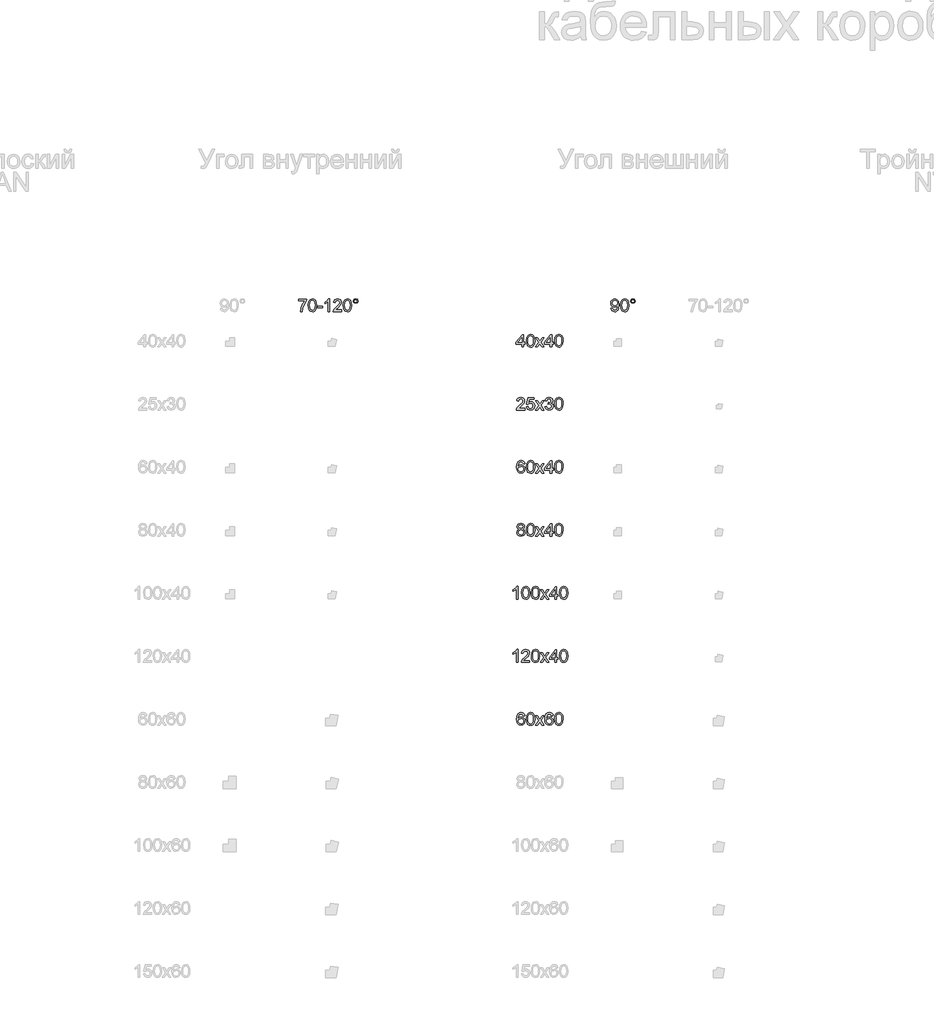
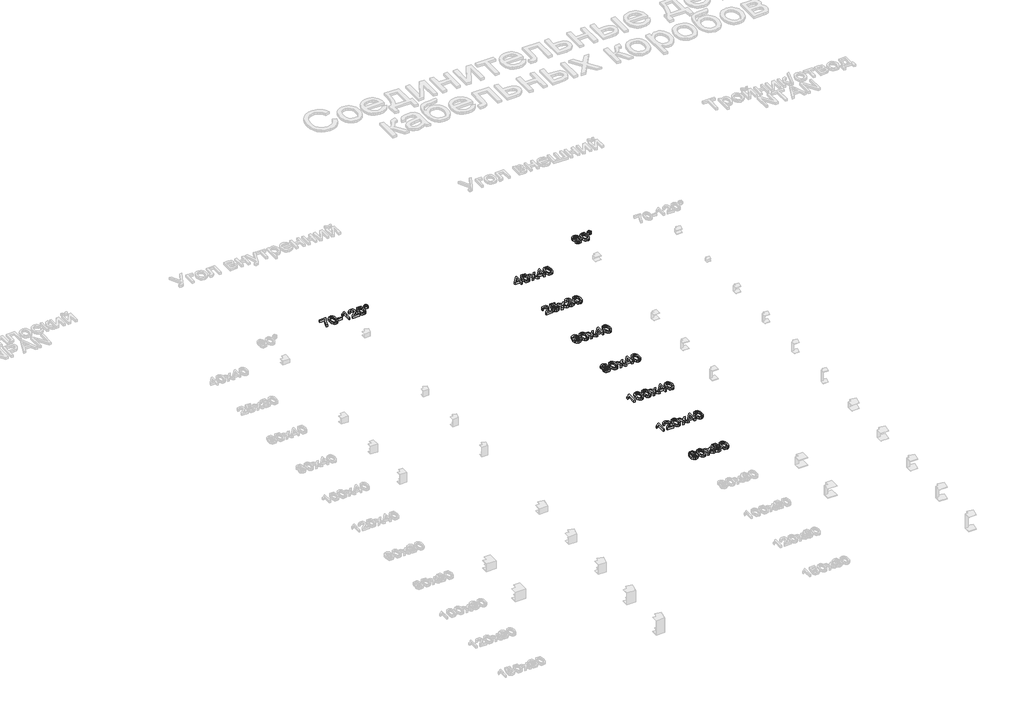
# One storey, part 23 of 28: 9 proxies.
"""IFC4 building model written with IfcOpenShell, lengths in millimetres."""

from ifc_helpers import new_model, si_unit, origin, origin_with_axes, place, context, project, spatial, polyline, outline, extrude, element, save

model = new_model("IFC4")

# Units and contexts
model_context = context("Model", 3, world=origin())
ifc_project = project(units=[si_unit("LENGTHUNIT", "METRE", prefix="MILLI")], contexts=[model_context])

# Site, building, storey
site = spatial("IfcSite", under=ifc_project)
building = spatial("IfcBuilding", under=site)
storey = spatial("IfcBuildingStorey", under=building, Name="Этаж 01", Elevation=0.0)

# Proxies
placement = place(None, origin())
element("IfcBuildingElementProxy", 1, Name="100 мм Arial", ObjectType="100 мм Arial", at=placement, inside=storey, context=model_context, shape_type="SweptSolid", body=[
    extrude(outline(polyline([(16326.7259865, 3404.3207982), (16326.7259865, 3416.877837), (16392.65044, 3416.877837), (16392.65044, 3406.7242939), (16373.949772, 3379.7094928), (16359.6391623, 3345.2880008), (16354.9793237, 3317.9911567), (16342.422285, 3317.9911567), (16347.4132174, 3346.3180703), (16361.1106903, 3378.3360667), (16380.0934013, 3404.3207982), (16326.7259865, 3404.3207982)])), origin_with_axes(), (0.0, 0.0, 1.0), 20.0),
    extrude(outline(polyline([(16403.637849, 3367.4099714), (16407.3289316, 3396.3132335), (16418.2918151, 3412.9782879), (16436.6000757, 3418.4474669), (16451.2663046, 3415.2101053), (16461.3953222, 3405.8781654), (16467.2814341, 3391.0157328), (16469.5623025, 3367.4099714), (16465.908008, 3338.6293366), (16454.9819128, 3321.9274941), (16446.7505531, 3317.7980187), (16436.6000757, 3316.4215269), (16423.5525276, 3318.8127598), (16413.6442392, 3325.9864587), (16406.1394465, 3342.9764756), (16403.637849, 3367.4099714)]), holes=[polyline([(16416.1948877, 3367.4344969), (16417.6664157, 3347.6822994), (16422.0809997, 3336.2503664), (16428.6538246, 3330.7965158), (16436.6000757, 3328.9785656), (16444.5463268, 3330.8026472), (16451.1191518, 3336.2748919), (16455.5337357, 3347.7129562), (16457.0052637, 3367.4344969), (16455.5827867, 3386.7421702), (16451.3153555, 3398.2630081), (16444.7547933, 3403.9835731), (16436.4529229, 3405.8904281), (16428.592511, 3404.2104336), (16422.2772034, 3399.1704503), (16417.7154666, 3386.9322426), (16416.1948877, 3367.4344969)])]), origin_with_axes(), (0.0, 0.0, 1.0), 20.0),
    extrude(outline(polyline([(16477.4104517, 3347.8141238), (16477.4104517, 3360.3711626), (16516.6511979, 3360.3711626), (16516.6511979, 3347.8141238), (16477.4104517, 3347.8141238)])), origin_with_axes(), (0.0, 0.0, 1.0), 20.0),
    extrude(outline(polyline([(16574.7275022, 3317.9911567), (16562.1704634, 3317.9911567), (16562.1704634, 3396.2764453), (16550.2756122, 3387.8028967), (16537.0563859, 3381.4630636), (16537.0563859, 3393.3333893), (16555.4627484, 3405.0810877), (16566.6340983, 3418.4474669), (16574.7275022, 3418.4474669), (16574.7275022, 3317.9911567)])), origin_with_axes(), (0.0, 0.0, 1.0), 20.0),
    extrude(outline(polyline([(16668.905293, 3330.5481955), (16668.905293, 3317.9911567), (16602.9808394, 3317.9911567), (16604.3297401, 3326.6486463), (16611.9571601, 3339.9782373), (16627.677984, 3354.5341016), (16649.3584963, 3375.4543244), (16654.7786243, 3389.6790948), (16649.6650646, 3401.1938013), (16636.3109482, 3405.8904281), (16622.392746, 3401.3041659), (16617.107508, 3388.6244998), (16604.5504693, 3390.1941296), (16607.5946928, 3402.3403668), (16614.1767148, 3411.2124543), (16623.9531788, 3416.6387137), (16636.5807283, 3418.4474669), (16649.3002483, 3416.4363786), (16659.0583182, 3410.4031139), (16665.2663269, 3401.390005), (16667.3356631, 3390.4393843), (16665.1038457, 3378.5322704), (16657.6848921, 3366.2204863), (16639.6954625, 3349.0158716), (16625.2499629, 3336.9370795), (16619.5845801, 3330.5481955), (16668.905293, 3330.5481955)])), origin_with_axes(), (0.0, 0.0, 1.0), 20.0),
    extrude(outline(polyline([(16681.4623317, 3367.4099714), (16685.1534144, 3396.3132335), (16696.1162979, 3412.9782879), (16714.4245585, 3418.4474669), (16729.0907874, 3415.2101053), (16739.219805, 3405.8781654), (16745.1059169, 3391.0157328), (16747.3867853, 3367.4099714), (16743.7324908, 3338.6293366), (16732.8063955, 3321.9274941), (16724.5750359, 3317.7980187), (16714.4245585, 3316.4215269), (16701.3770104, 3318.8127598), (16691.468722, 3325.9864587), (16683.9639293, 3342.9764756), (16681.4623317, 3367.4099714)]), holes=[polyline([(16694.0193705, 3367.4344969), (16695.4908985, 3347.6822994), (16699.9054824, 3336.2503664), (16706.4783074, 3330.7965158), (16714.4245585, 3328.9785656), (16722.3708096, 3330.8026472), (16728.9436346, 3336.2748919), (16733.3582185, 3347.7129562), (16734.8297465, 3367.4344969), (16733.4072694, 3386.7421702), (16729.1398383, 3398.2630081), (16722.579276, 3403.9835731), (16714.2774057, 3405.8904281), (16706.4169937, 3404.2104336), (16700.1016861, 3399.1704503), (16695.5399494, 3386.9322426), (16694.0193705, 3367.4344969)])]), origin_with_axes(), (0.0, 0.0, 1.0), 20.0),
    extrude(outline(polyline([(16761.5134539, 3401.206064), (16767.0439465, 3414.5233922), (16780.3244866, 3420.0170967), (16793.6908657, 3414.5233922), (16799.1845702, 3401.206064), (16793.6540775, 3387.8764731), (16780.3244866, 3382.3459804), (16767.0439465, 3387.8396849), (16761.5134539, 3401.206064)]), holes=[polyline([(16769.3616031, 3401.1815386), (16772.5867019, 3393.4069657), (16780.3735375, 3390.1941296), (16788.1113221, 3393.4069657), (16791.3364209, 3401.1815386), (16788.1113221, 3408.9561114), (16780.3735375, 3412.1689475), (16772.5867019, 3408.9561114), (16769.3616031, 3401.1815386)])]), origin_with_axes(), (0.0, 0.0, 1.0), 20.0),
])
element("IfcBuildingElementProxy", 2, Name="100 мм Arial", ObjectType="100 мм Arial", at=placement, inside=storey, context=model_context, shape_type="SweptSolid", body=[
    extrude(outline(polyline([(18099.7099126, 3036.6647442), (18099.7099126, 3060.2091919), (18054.1906471, 3060.2091919), (18054.1906471, 3072.7662307), (18102.8491723, 3135.5514245), (18112.2669514, 3135.5514245), (18112.2669514, 3072.7662307), (18124.8239902, 3072.7662307), (18124.8239902, 3060.2091919), (18112.2669514, 3060.2091919), (18112.2669514, 3036.6647442), (18099.7099126, 3036.6647442)]), holes=[polyline([(18099.7099126, 3072.7662307), (18099.7099126, 3111.5655184), (18069.6416909, 3072.7662307), (18099.7099126, 3072.7662307)])]), origin_with_axes(), (0.0, 0.0, 1.0), 20.0),
    extrude(outline(polyline([(18135.8113991, 3086.0835589), (18139.5024818, 3114.986821), (18150.4653652, 3131.6518754), (18168.7736259, 3137.1210543), (18183.4398547, 3133.8836928), (18193.5688723, 3124.5517528), (18199.4549843, 3109.6893202), (18201.7358526, 3086.0835589), (18198.0815581, 3057.3029241), (18187.1554629, 3040.6010815), (18178.9241032, 3036.4716062), (18168.7736259, 3035.0951144), (18155.7260778, 3037.4863473), (18145.8177894, 3044.6600462), (18138.3129967, 3061.650063), (18135.8113991, 3086.0835589)]), holes=[polyline([(18148.3684379, 3086.1080844), (18149.8399658, 3066.3558869), (18154.2545498, 3054.9239539), (18160.8273748, 3049.4701033), (18168.7736259, 3047.6521531), (18176.719877, 3049.4762347), (18183.2927019, 3054.9484794), (18187.7072859, 3066.3865437), (18189.1788139, 3086.1080844), (18187.7563368, 3105.4157577), (18183.4889057, 3116.9365955), (18176.9283434, 3122.6571606), (18168.6264731, 3124.5640156), (18160.7660611, 3122.8840211), (18154.4507535, 3117.8440378), (18149.8890168, 3105.6058301), (18148.3684379, 3086.1080844)])]), origin_with_axes(), (0.0, 0.0, 1.0), 20.0),
    extrude(outline(polyline([(18208.014372, 3036.6647442), (18234.8452322, 3073.7472493), (18209.5840019, 3110.437347), (18224.6916891, 3110.437347), (18236.8808459, 3092.7790112), (18242.5707541, 3084.4403526), (18247.5003728, 3091.2584323), (18261.3817868, 3110.437347), (18276.489474, 3110.437347), (18249.9529195, 3073.7472493), (18275.5084554, 3036.6647442), (18260.4007681, 3036.6647442), (18245.0233007, 3058.9583931), (18242.2028721, 3063.0296205), (18223.1220593, 3036.6647442), (18208.014372, 3036.6647442)])), origin_with_axes(), (0.0, 0.0, 1.0), 20.0),
    extrude(outline(polyline([(18324.1669806, 3036.6647442), (18324.1669806, 3060.2091919), (18278.6477151, 3060.2091919), (18278.6477151, 3072.7662307), (18327.3062403, 3135.5514245), (18336.7240194, 3135.5514245), (18336.7240194, 3072.7662307), (18349.2810582, 3072.7662307), (18349.2810582, 3060.2091919), (18336.7240194, 3060.2091919), (18336.7240194, 3036.6647442), (18324.1669806, 3036.6647442)]), holes=[polyline([(18324.1669806, 3072.7662307), (18324.1669806, 3111.5655184), (18294.0987589, 3072.7662307), (18324.1669806, 3072.7662307)])]), origin_with_axes(), (0.0, 0.0, 1.0), 20.0),
    extrude(outline(polyline([(18360.2684671, 3086.0835589), (18363.9595498, 3114.986821), (18374.9224332, 3131.6518754), (18393.2306938, 3137.1210543), (18407.8969227, 3133.8836928), (18418.0259403, 3124.5517528), (18423.9120522, 3109.6893202), (18426.1929206, 3086.0835589), (18422.5386261, 3057.3029241), (18411.6125309, 3040.6010815), (18403.3811712, 3036.4716062), (18393.2306938, 3035.0951144), (18380.1831458, 3037.4863473), (18370.2748573, 3044.6600462), (18362.7700646, 3061.650063), (18360.2684671, 3086.0835589)]), holes=[polyline([(18372.8255058, 3086.1080844), (18374.2970338, 3066.3558869), (18378.7116178, 3054.9239539), (18385.2844428, 3049.4701033), (18393.2306938, 3047.6521531), (18401.1769449, 3049.4762347), (18407.7497699, 3054.9484794), (18412.1643539, 3066.3865437), (18413.6358818, 3086.1080844), (18412.2134048, 3105.4157577), (18407.9459737, 3116.9365955), (18401.3854114, 3122.6571606), (18393.0835411, 3124.5640156), (18385.2231291, 3122.8840211), (18378.9078215, 3117.8440378), (18374.3460848, 3105.6058301), (18372.8255058, 3086.1080844)])]), origin_with_axes(), (0.0, 0.0, 1.0), 20.0),
])
element("IfcBuildingElementProxy", 3, Name="100 мм Arial", ObjectType="100 мм Arial", at=placement, inside=storey, context=model_context, shape_type="SweptSolid", body=[
    extrude(outline(polyline([(18123.2543603, 2549.221783), (18123.2543603, 2536.6647442), (18057.3299068, 2536.6647442), (18058.6788074, 2545.3222338), (18066.3062275, 2558.6518248), (18082.0270514, 2573.2076891), (18103.7075636, 2594.1279118), (18109.1276917, 2608.3526823), (18104.014132, 2619.8673888), (18090.6600155, 2624.5640156), (18076.7418134, 2619.9777534), (18071.4565754, 2607.2980873), (18058.8995366, 2608.8677171), (18061.9437601, 2621.0139543), (18068.5257822, 2629.8860418), (18078.3022462, 2635.3123012), (18090.9297957, 2637.1210543), (18103.6493157, 2635.1099661), (18113.4073856, 2629.0767014), (18119.6153943, 2620.0635925), (18121.6847305, 2609.1129718), (18119.452913, 2597.2058579), (18112.0339595, 2584.8940738), (18094.0445299, 2567.6894591), (18079.5990302, 2555.610667), (18073.9336475, 2549.221783), (18123.2543603, 2549.221783)])), origin_with_axes(), (0.0, 0.0, 1.0), 20.0),
    extrude(outline(polyline([(18135.8113991, 2563.3484516), (18148.3684379, 2564.9180814), (18154.6960082, 2551.9808979), (18167.8171327, 2547.6521531), (18176.8179788, 2549.1574036), (18183.5624821, 2553.6731551), (18187.7747309, 2560.6782414), (18189.1788139, 2569.6514964), (18183.9181013, 2584.56298), (18177.3115538, 2588.6648642), (18168.0133364, 2590.032159), (18156.9891393, 2587.8493925), (18149.9380677, 2582.1840097), (18137.3810289, 2583.7536396), (18148.3684379, 2635.5514245), (18197.0269631, 2635.5514245), (18197.0269631, 2622.9943857), (18158.5219809, 2622.9943857), (18153.1509038, 2595.3296597), (18162.1210931, 2600.7743132), (18171.5204781, 2602.5891977), (18183.2528481, 2600.3389862), (18192.9925239, 2593.5883516), (18199.5500204, 2583.2999185), (18201.7358526, 2570.4363114), (18199.767684, 2557.8792726), (18193.8631779, 2547.1371183), (18182.5569379, 2538.1056153), (18167.7680817, 2535.0951144), (18155.4348378, 2537.0295605), (18145.6093229, 2542.832899), (18138.8740167, 2551.8306794), (18135.8113991, 2563.3484516)])), origin_with_axes(), (0.0, 0.0, 1.0), 20.0),
    extrude(outline(polyline([(18208.014372, 2536.6647442), (18234.8452322, 2573.7472493), (18209.5840019, 2610.437347), (18224.6916891, 2610.437347), (18236.8808459, 2592.7790112), (18242.5707541, 2584.4403526), (18247.5003728, 2591.2584323), (18261.3817868, 2610.437347), (18276.489474, 2610.437347), (18249.9529195, 2573.7472493), (18275.5084554, 2536.6647442), (18260.4007681, 2536.6647442), (18245.0233007, 2558.9583931), (18242.2028721, 2563.0296205), (18223.1220593, 2536.6647442), (18208.014372, 2536.6647442)])), origin_with_axes(), (0.0, 0.0, 1.0), 20.0),
    extrude(outline(polyline([(18283.3566046, 2563.3484516), (18295.9136434, 2564.9180814), (18302.8420876, 2551.6988551), (18315.8037966, 2547.6521531), (18324.4122353, 2549.0439733), (18331.0586367, 2553.219434), (18336.7240194, 2567.0027461), (18331.1076876, 2579.9889805), (18316.8338662, 2585.1270657), (18308.0292238, 2583.7536396), (18309.4271753, 2596.3106784), (18311.4382636, 2596.1635256), (18325.6875595, 2599.7687691), (18330.4332373, 2604.3427686), (18332.0151299, 2610.8542799), (18327.4288676, 2620.6767292), (18315.6075929, 2624.5640156), (18303.6391653, 2620.639941), (18297.4832732, 2608.8677171), (18284.9262345, 2610.437347), (18288.6234485, 2621.7129301), (18295.2024049, 2630.1312964), (18304.203251, 2635.3736149), (18315.1661345, 2637.1210543), (18330.3106099, 2633.6752263), (18340.9056114, 2624.2574473), (18344.5721686, 2611.5900439), (18341.0895524, 2600.0140238), (18330.7888565, 2591.6998907), (18344.4740668, 2583.1159775), (18349.2810582, 2566.7820169), (18346.8775625, 2554.5438092), (18339.6670754, 2544.3166897), (18328.7838997, 2537.4005082), (18315.3623382, 2535.0951144), (18303.2222324, 2537.063283), (18293.3384694, 2542.967789), (18286.4652075, 2551.999292), (18283.3566046, 2563.3484516)])), origin_with_axes(), (0.0, 0.0, 1.0), 20.0),
    extrude(outline(polyline([(18360.2684671, 2586.0835589), (18363.9595498, 2614.986821), (18374.9224332, 2631.6518754), (18393.2306938, 2637.1210543), (18407.8969227, 2633.8836928), (18418.0259403, 2624.5517528), (18423.9120522, 2609.6893202), (18426.1929206, 2586.0835589), (18422.5386261, 2557.3029241), (18411.6125309, 2540.6010815), (18403.3811712, 2536.4716062), (18393.2306938, 2535.0951144), (18380.1831458, 2537.4863473), (18370.2748573, 2544.6600462), (18362.7700646, 2561.650063), (18360.2684671, 2586.0835589)]), holes=[polyline([(18372.8255058, 2586.1080844), (18374.2970338, 2566.3558869), (18378.7116178, 2554.9239539), (18385.2844428, 2549.4701033), (18393.2306938, 2547.6521531), (18401.1769449, 2549.4762347), (18407.7497699, 2554.9484794), (18412.1643539, 2566.3865437), (18413.6358818, 2586.1080844), (18412.2134048, 2605.4157577), (18407.9459737, 2616.9365955), (18401.3854114, 2622.6571606), (18393.0835411, 2624.5640156), (18385.2231291, 2622.8840211), (18378.9078215, 2617.8440378), (18374.3460848, 2605.6058301), (18372.8255058, 2586.1080844)])]), origin_with_axes(), (0.0, 0.0, 1.0), 20.0),
])
element("IfcBuildingElementProxy", 4, Name="100 мм Arial", ObjectType="100 мм Arial", at=placement, inside=storey, context=model_context, shape_type="SweptSolid", body=[
    extrude(outline(polyline([(18123.2543603, 2110.437347), (18110.6973216, 2108.8677171), (18105.9393811, 2119.3400912), (18093.3578168, 2124.5640156), (18082.0270514, 2121.5228578), (18073.4554009, 2110.1062532), (18069.8869456, 2087.7267651), (18080.9601936, 2097.7454181), (18094.682192, 2101.0195679), (18106.2827376, 2098.7816191), (18116.0193477, 2092.0677727), (18122.6228296, 2081.8099964), (18124.8239902, 2068.9402579), (18120.6791864, 2051.6130159), (18109.2748445, 2039.3502828), (18092.8182566, 2035.0951144), (18078.5720263, 2037.915543), (18067.2259325, 2046.3768289), (18059.8039132, 2061.3128379), (18057.3299068, 2083.5574359), (18060.076759, 2108.5672802), (18068.3173157, 2125.6676616), (18079.5683734, 2134.2577062), (18094.1426318, 2137.1210543), (18105.1606975, 2135.3490894), (18113.983734, 2130.0331946), (18120.1641516, 2121.5903028), (18123.2543603, 2110.437347)]), holes=[polyline([(18069.8869456, 2069.1364616), (18072.7932133, 2058.2594173), (18080.5187352, 2050.3622172), (18091.8372379, 2047.6521531), (18100.1237799, 2049.0562361), (18106.6383569, 2053.2684849), (18110.8598028, 2059.8903608), (18112.2669514, 2068.523325), (18110.8781969, 2076.8098669), (18106.7119333, 2083.1282402), (18100.0869917, 2087.1289569), (18091.3222031, 2088.4625291), (18076.1286767, 2083.1282402), (18071.4473784, 2076.9631511), (18069.8869456, 2069.1364616)])]), origin_with_axes(), (0.0, 0.0, 1.0), 20.0),
    extrude(outline(polyline([(18135.8113991, 2086.0835589), (18139.5024818, 2114.986821), (18150.4653652, 2131.6518754), (18168.7736259, 2137.1210543), (18183.4398547, 2133.8836928), (18193.5688723, 2124.5517528), (18199.4549843, 2109.6893202), (18201.7358526, 2086.0835589), (18198.0815581, 2057.3029241), (18187.1554629, 2040.6010815), (18178.9241032, 2036.4716062), (18168.7736259, 2035.0951144), (18155.7260778, 2037.4863473), (18145.8177894, 2044.6600462), (18138.3129967, 2061.650063), (18135.8113991, 2086.0835589)]), holes=[polyline([(18148.3684379, 2086.1080844), (18149.8399658, 2066.3558869), (18154.2545498, 2054.9239539), (18160.8273748, 2049.4701033), (18168.7736259, 2047.6521531), (18176.719877, 2049.4762347), (18183.2927019, 2054.9484794), (18187.7072859, 2066.3865437), (18189.1788139, 2086.1080844), (18187.7563368, 2105.4157577), (18183.4889057, 2116.9365955), (18176.9283434, 2122.6571606), (18168.6264731, 2124.5640156), (18160.7660611, 2122.8840211), (18154.4507535, 2117.8440378), (18149.8890168, 2105.6058301), (18148.3684379, 2086.1080844)])]), origin_with_axes(), (0.0, 0.0, 1.0), 20.0),
    extrude(outline(polyline([(18208.014372, 2036.6647442), (18234.8452322, 2073.7472493), (18209.5840019, 2110.437347), (18224.6916891, 2110.437347), (18236.8808459, 2092.7790112), (18242.5707541, 2084.4403526), (18247.5003728, 2091.2584323), (18261.3817868, 2110.437347), (18276.489474, 2110.437347), (18249.9529195, 2073.7472493), (18275.5084554, 2036.6647442), (18260.4007681, 2036.6647442), (18245.0233007, 2058.9583931), (18242.2028721, 2063.0296205), (18223.1220593, 2036.6647442), (18208.014372, 2036.6647442)])), origin_with_axes(), (0.0, 0.0, 1.0), 20.0),
    extrude(outline(polyline([(18324.1669806, 2036.6647442), (18324.1669806, 2060.2091919), (18278.6477151, 2060.2091919), (18278.6477151, 2072.7662307), (18327.3062403, 2135.5514245), (18336.7240194, 2135.5514245), (18336.7240194, 2072.7662307), (18349.2810582, 2072.7662307), (18349.2810582, 2060.2091919), (18336.7240194, 2060.2091919), (18336.7240194, 2036.6647442), (18324.1669806, 2036.6647442)]), holes=[polyline([(18324.1669806, 2072.7662307), (18324.1669806, 2111.5655184), (18294.0987589, 2072.7662307), (18324.1669806, 2072.7662307)])]), origin_with_axes(), (0.0, 0.0, 1.0), 20.0),
    extrude(outline(polyline([(18360.2684671, 2086.0835589), (18363.9595498, 2114.986821), (18374.9224332, 2131.6518754), (18393.2306938, 2137.1210543), (18407.8969227, 2133.8836928), (18418.0259403, 2124.5517528), (18423.9120522, 2109.6893202), (18426.1929206, 2086.0835589), (18422.5386261, 2057.3029241), (18411.6125309, 2040.6010815), (18403.3811712, 2036.4716062), (18393.2306938, 2035.0951144), (18380.1831458, 2037.4863473), (18370.2748573, 2044.6600462), (18362.7700646, 2061.650063), (18360.2684671, 2086.0835589)]), holes=[polyline([(18372.8255058, 2086.1080844), (18374.2970338, 2066.3558869), (18378.7116178, 2054.9239539), (18385.2844428, 2049.4701033), (18393.2306938, 2047.6521531), (18401.1769449, 2049.4762347), (18407.7497699, 2054.9484794), (18412.1643539, 2066.3865437), (18413.6358818, 2086.1080844), (18412.2134048, 2105.4157577), (18407.9459737, 2116.9365955), (18401.3854114, 2122.6571606), (18393.0835411, 2124.5640156), (18385.2231291, 2122.8840211), (18378.9078215, 2117.8440378), (18374.3460848, 2105.6058301), (18372.8255058, 2086.1080844)])]), origin_with_axes(), (0.0, 0.0, 1.0), 20.0),
])
element("IfcBuildingElementProxy", 5, Name="100 мм Arial", ObjectType="100 мм Arial", at=placement, inside=storey, context=model_context, shape_type="SweptSolid", body=[
    extrude(outline(polyline([(18077.1955345, 1591.9941963), (18065.7544045, 1599.7932946), (18062.0387963, 1611.9334004), (18064.0621473, 1621.7497183), (18070.1322002, 1629.8615163), (18079.5683734, 1635.3061698), (18091.6900851, 1637.1210543), (18103.8853733, 1635.2632503), (18113.4441738, 1629.689838), (18119.6245913, 1621.4492814), (18121.6847305, 1611.5900439), (18118.0181733, 1599.7565064), (18106.8958743, 1591.9941963), (18120.2499907, 1582.1472215), (18124.8239902, 1565.8991001), (18122.5553845, 1553.8938843), (18115.7495676, 1543.9733332), (18105.2404053, 1537.3146691), (18091.8617634, 1535.0951144), (18078.4831215, 1537.3238661), (18067.9739592, 1544.0101214), (18061.1681423, 1554.0257087), (18058.8995366, 1566.2424566), (18063.6574771, 1582.8707228), (18077.1955345, 1591.9941963)]), holes=[polyline([(18074.5958351, 1611.5655184), (18079.0472072, 1601.7062809), (18092.0089162, 1597.8803082), (18104.7131078, 1601.6817555), (18109.1276917, 1611.0014327), (18104.565955, 1620.6522037), (18091.8617634, 1624.5640156), (18079.1207836, 1620.7380428), (18074.5958351, 1611.5655184)]), polyline([(18071.4565754, 1566.683915), (18073.5535028, 1557.2293477), (18080.9724563, 1550.1537507), (18091.9598653, 1547.6521531), (18100.5069903, 1548.9673313), (18106.9203997, 1552.9128657), (18112.2669514, 1566.2915075), (18106.7487215, 1579.9276668), (18100.1881592, 1583.9743688), (18091.5429323, 1585.3232694), (18083.115369, 1583.9927629), (18076.7663389, 1580.0012432), (18071.4565754, 1566.683915)])]), origin_with_axes(), (0.0, 0.0, 1.0), 20.0),
    extrude(outline(polyline([(18135.8113991, 1586.0835589), (18139.5024818, 1614.986821), (18150.4653652, 1631.6518754), (18168.7736259, 1637.1210543), (18183.4398547, 1633.8836928), (18193.5688723, 1624.5517528), (18199.4549843, 1609.6893202), (18201.7358526, 1586.0835589), (18198.0815581, 1557.3029241), (18187.1554629, 1540.6010815), (18178.9241032, 1536.4716062), (18168.7736259, 1535.0951144), (18155.7260778, 1537.4863473), (18145.8177894, 1544.6600462), (18138.3129967, 1561.650063), (18135.8113991, 1586.0835589)]), holes=[polyline([(18148.3684379, 1586.1080844), (18149.8399658, 1566.3558869), (18154.2545498, 1554.9239539), (18160.8273748, 1549.4701033), (18168.7736259, 1547.6521531), (18176.719877, 1549.4762347), (18183.2927019, 1554.9484794), (18187.7072859, 1566.3865437), (18189.1788139, 1586.1080844), (18187.7563368, 1605.4157577), (18183.4889057, 1616.9365955), (18176.9283434, 1622.6571606), (18168.6264731, 1624.5640156), (18160.7660611, 1622.8840211), (18154.4507535, 1617.8440378), (18149.8890168, 1605.6058301), (18148.3684379, 1586.1080844)])]), origin_with_axes(), (0.0, 0.0, 1.0), 20.0),
    extrude(outline(polyline([(18208.014372, 1536.6647442), (18234.8452322, 1573.7472493), (18209.5840019, 1610.437347), (18224.6916891, 1610.437347), (18236.8808459, 1592.7790112), (18242.5707541, 1584.4403526), (18247.5003728, 1591.2584323), (18261.3817868, 1610.437347), (18276.489474, 1610.437347), (18249.9529195, 1573.7472493), (18275.5084554, 1536.6647442), (18260.4007681, 1536.6647442), (18245.0233007, 1558.9583931), (18242.2028721, 1563.0296205), (18223.1220593, 1536.6647442), (18208.014372, 1536.6647442)])), origin_with_axes(), (0.0, 0.0, 1.0), 20.0),
    extrude(outline(polyline([(18324.1669806, 1536.6647442), (18324.1669806, 1560.2091919), (18278.6477151, 1560.2091919), (18278.6477151, 1572.7662307), (18327.3062403, 1635.5514245), (18336.7240194, 1635.5514245), (18336.7240194, 1572.7662307), (18349.2810582, 1572.7662307), (18349.2810582, 1560.2091919), (18336.7240194, 1560.2091919), (18336.7240194, 1536.6647442), (18324.1669806, 1536.6647442)]), holes=[polyline([(18324.1669806, 1572.7662307), (18324.1669806, 1611.5655184), (18294.0987589, 1572.7662307), (18324.1669806, 1572.7662307)])]), origin_with_axes(), (0.0, 0.0, 1.0), 20.0),
    extrude(outline(polyline([(18360.2684671, 1586.0835589), (18363.9595498, 1614.986821), (18374.9224332, 1631.6518754), (18393.2306938, 1637.1210543), (18407.8969227, 1633.8836928), (18418.0259403, 1624.5517528), (18423.9120522, 1609.6893202), (18426.1929206, 1586.0835589), (18422.5386261, 1557.3029241), (18411.6125309, 1540.6010815), (18403.3811712, 1536.4716062), (18393.2306938, 1535.0951144), (18380.1831458, 1537.4863473), (18370.2748573, 1544.6600462), (18362.7700646, 1561.650063), (18360.2684671, 1586.0835589)]), holes=[polyline([(18372.8255058, 1586.1080844), (18374.2970338, 1566.3558869), (18378.7116178, 1554.9239539), (18385.2844428, 1549.4701033), (18393.2306938, 1547.6521531), (18401.1769449, 1549.4762347), (18407.7497699, 1554.9484794), (18412.1643539, 1566.3865437), (18413.6358818, 1586.1080844), (18412.2134048, 1605.4157577), (18407.9459737, 1616.9365955), (18401.3854114, 1622.6571606), (18393.0835411, 1624.5640156), (18385.2231291, 1622.8840211), (18378.9078215, 1617.8440378), (18374.3460848, 1605.6058301), (18372.8255058, 1586.1080844)])]), origin_with_axes(), (0.0, 0.0, 1.0), 20.0),
])
element("IfcBuildingElementProxy", 6, Name="100 мм Arial", ObjectType="100 мм Arial", at=placement, inside=storey, context=model_context, shape_type="SweptSolid", body=[
    extrude(outline(polyline([(18067.5325008, 1036.6647442), (18054.975462, 1036.6647442), (18054.975462, 1114.9500328), (18043.0806108, 1106.4764842), (18029.8613845, 1100.1366511), (18029.8613845, 1112.0069768), (18048.267747, 1123.7546752), (18059.4390969, 1137.1210543), (18067.5325008, 1137.1210543), (18067.5325008, 1036.6647442)])), origin_with_axes(), (0.0, 0.0, 1.0), 20.0),
    extrude(outline(polyline([(18097.3554679, 1086.0835589), (18101.0465505, 1114.986821), (18112.009434, 1131.6518754), (18130.3176946, 1137.1210543), (18144.9839235, 1133.8836928), (18155.1129411, 1124.5517528), (18160.999053, 1109.6893202), (18163.2799214, 1086.0835589), (18159.6256269, 1057.3029241), (18148.6995317, 1040.6010815), (18140.468172, 1036.4716062), (18130.3176946, 1035.0951144), (18117.2701465, 1037.4863473), (18107.3618581, 1044.6600462), (18099.8570654, 1061.650063), (18097.3554679, 1086.0835589)]), holes=[polyline([(18109.9125066, 1086.1080844), (18111.3840346, 1066.3558869), (18115.7986186, 1054.9239539), (18122.3714435, 1049.4701033), (18130.3176946, 1047.6521531), (18138.2639457, 1049.4762347), (18144.8367707, 1054.9484794), (18149.2513546, 1066.3865437), (18150.7228826, 1086.1080844), (18149.3004056, 1105.4157577), (18145.0329744, 1116.9365955), (18138.4724122, 1122.6571606), (18130.1705418, 1124.5640156), (18122.3101299, 1122.8840211), (18115.9948223, 1117.8440378), (18111.4330855, 1105.6058301), (18109.9125066, 1086.1080844)])]), origin_with_axes(), (0.0, 0.0, 1.0), 20.0),
    extrude(outline(polyline([(18174.2673303, 1086.0835589), (18177.958413, 1114.986821), (18188.9212965, 1131.6518754), (18207.2295571, 1137.1210543), (18221.895786, 1133.8836928), (18232.0248036, 1124.5517528), (18237.9109155, 1109.6893202), (18240.1917839, 1086.0835589), (18236.5374894, 1057.3029241), (18225.6113941, 1040.6010815), (18217.3800345, 1036.4716062), (18207.2295571, 1035.0951144), (18194.182009, 1037.4863473), (18184.2737206, 1044.6600462), (18176.7689279, 1061.650063), (18174.2673303, 1086.0835589)]), holes=[polyline([(18186.8243691, 1086.1080844), (18188.2958971, 1066.3558869), (18192.710481, 1054.9239539), (18199.283306, 1049.4701033), (18207.2295571, 1047.6521531), (18215.1758082, 1049.4762347), (18221.7486332, 1054.9484794), (18226.1632171, 1066.3865437), (18227.6347451, 1086.1080844), (18226.212268, 1105.4157577), (18221.9448369, 1116.9365955), (18215.3842746, 1122.6571606), (18207.0824043, 1124.5640156), (18199.2219923, 1122.8840211), (18192.9066847, 1117.8440378), (18188.344948, 1105.6058301), (18186.8243691, 1086.1080844)])]), origin_with_axes(), (0.0, 0.0, 1.0), 20.0),
    extrude(outline(polyline([(18246.4703032, 1036.6647442), (18273.3011634, 1073.7472493), (18248.0399331, 1110.437347), (18263.1476204, 1110.437347), (18275.3367771, 1092.7790112), (18281.0266853, 1084.4403526), (18285.9563041, 1091.2584323), (18299.837718, 1110.437347), (18314.9454053, 1110.437347), (18288.4088507, 1073.7472493), (18313.9643866, 1036.6647442), (18298.8566994, 1036.6647442), (18283.479232, 1058.9583931), (18280.6588033, 1063.0296205), (18261.5779905, 1036.6647442), (18246.4703032, 1036.6647442)])), origin_with_axes(), (0.0, 0.0, 1.0), 20.0),
    extrude(outline(polyline([(18362.6229119, 1036.6647442), (18362.6229119, 1060.2091919), (18317.1036463, 1060.2091919), (18317.1036463, 1072.7662307), (18365.7621715, 1135.5514245), (18375.1799506, 1135.5514245), (18375.1799506, 1072.7662307), (18387.7369894, 1072.7662307), (18387.7369894, 1060.2091919), (18375.1799506, 1060.2091919), (18375.1799506, 1036.6647442), (18362.6229119, 1036.6647442)]), holes=[polyline([(18362.6229119, 1072.7662307), (18362.6229119, 1111.5655184), (18332.5546901, 1072.7662307), (18362.6229119, 1072.7662307)])]), origin_with_axes(), (0.0, 0.0, 1.0), 20.0),
    extrude(outline(polyline([(18398.7243983, 1086.0835589), (18402.415481, 1114.986821), (18413.3783645, 1131.6518754), (18431.6866251, 1137.1210543), (18446.352854, 1133.8836928), (18456.4818716, 1124.5517528), (18462.3679835, 1109.6893202), (18464.6488518, 1086.0835589), (18460.9945574, 1057.3029241), (18450.0684621, 1040.6010815), (18441.8371025, 1036.4716062), (18431.6866251, 1035.0951144), (18418.639077, 1037.4863473), (18408.7307886, 1044.6600462), (18401.2259959, 1061.650063), (18398.7243983, 1086.0835589)]), holes=[polyline([(18411.2814371, 1086.1080844), (18412.7529651, 1066.3558869), (18417.167549, 1054.9239539), (18423.740374, 1049.4701033), (18431.6866251, 1047.6521531), (18439.6328762, 1049.4762347), (18446.2057012, 1054.9484794), (18450.6202851, 1066.3865437), (18452.0918131, 1086.1080844), (18450.669336, 1105.4157577), (18446.4019049, 1116.9365955), (18439.8413426, 1122.6571606), (18431.5394723, 1124.5640156), (18423.6790603, 1122.8840211), (18417.3637527, 1117.8440378), (18412.802016, 1105.6058301), (18411.2814371, 1086.1080844)])]), origin_with_axes(), (0.0, 0.0, 1.0), 20.0),
])
element("IfcBuildingElementProxy", 7, Name="100 мм Arial", ObjectType="100 мм Arial", at=placement, inside=storey, context=model_context, shape_type="SweptSolid", body=[
    extrude(outline(polyline([(18067.5325008, 536.6647442), (18054.975462, 536.6647442), (18054.975462, 614.9500328), (18043.0806108, 606.4764842), (18029.8613845, 600.1366511), (18029.8613845, 612.0069768), (18048.267747, 623.7546752), (18059.4390969, 637.1210543), (18067.5325008, 637.1210543), (18067.5325008, 536.6647442)])), origin_with_axes(), (0.0, 0.0, 1.0), 20.0),
    extrude(outline(polyline([(18161.7102916, 549.221783), (18161.7102916, 536.6647442), (18095.785838, 536.6647442), (18097.1347387, 545.3222338), (18104.7621587, 558.6518248), (18120.4829826, 573.2076891), (18142.1634949, 594.1279118), (18147.5836229, 608.3526823), (18142.4700632, 619.8673888), (18129.1159468, 624.5640156), (18115.1977446, 619.9777534), (18109.9125066, 607.2980873), (18097.3554679, 608.8677171), (18100.3996914, 621.0139543), (18106.9817134, 629.8860418), (18116.7581774, 635.3123012), (18129.3857269, 637.1210543), (18142.1052469, 635.1099661), (18151.8633168, 629.0767014), (18158.0713255, 620.0635925), (18160.1406617, 609.1129718), (18157.9088443, 597.2058579), (18150.4898907, 584.8940738), (18132.5004611, 567.6894591), (18118.0549615, 555.610667), (18112.3895787, 549.221783), (18161.7102916, 549.221783)])), origin_with_axes(), (0.0, 0.0, 1.0), 20.0),
    extrude(outline(polyline([(18174.2673303, 586.0835589), (18177.958413, 614.986821), (18188.9212965, 631.6518754), (18207.2295571, 637.1210543), (18221.895786, 633.8836928), (18232.0248036, 624.5517528), (18237.9109155, 609.6893202), (18240.1917839, 586.0835589), (18236.5374894, 557.3029241), (18225.6113941, 540.6010815), (18217.3800345, 536.4716062), (18207.2295571, 535.0951144), (18194.182009, 537.4863473), (18184.2737206, 544.6600462), (18176.7689279, 561.650063), (18174.2673303, 586.0835589)]), holes=[polyline([(18186.8243691, 586.1080844), (18188.2958971, 566.3558869), (18192.710481, 554.9239539), (18199.283306, 549.4701033), (18207.2295571, 547.6521531), (18215.1758082, 549.4762347), (18221.7486332, 554.9484794), (18226.1632171, 566.3865437), (18227.6347451, 586.1080844), (18226.212268, 605.4157577), (18221.9448369, 616.9365955), (18215.3842746, 622.6571606), (18207.0824043, 624.5640156), (18199.2219923, 622.8840211), (18192.9066847, 617.8440378), (18188.344948, 605.6058301), (18186.8243691, 586.1080844)])]), origin_with_axes(), (0.0, 0.0, 1.0), 20.0),
    extrude(outline(polyline([(18246.4703032, 536.6647442), (18273.3011634, 573.7472493), (18248.0399331, 610.437347), (18263.1476204, 610.437347), (18275.3367771, 592.7790112), (18281.0266853, 584.4403526), (18285.9563041, 591.2584323), (18299.837718, 610.437347), (18314.9454053, 610.437347), (18288.4088507, 573.7472493), (18313.9643866, 536.6647442), (18298.8566994, 536.6647442), (18283.479232, 558.9583931), (18280.6588033, 563.0296205), (18261.5779905, 536.6647442), (18246.4703032, 536.6647442)])), origin_with_axes(), (0.0, 0.0, 1.0), 20.0),
    extrude(outline(polyline([(18362.6229119, 536.6647442), (18362.6229119, 560.2091919), (18317.1036463, 560.2091919), (18317.1036463, 572.7662307), (18365.7621715, 635.5514245), (18375.1799506, 635.5514245), (18375.1799506, 572.7662307), (18387.7369894, 572.7662307), (18387.7369894, 560.2091919), (18375.1799506, 560.2091919), (18375.1799506, 536.6647442), (18362.6229119, 536.6647442)]), holes=[polyline([(18362.6229119, 572.7662307), (18362.6229119, 611.5655184), (18332.5546901, 572.7662307), (18362.6229119, 572.7662307)])]), origin_with_axes(), (0.0, 0.0, 1.0), 20.0),
    extrude(outline(polyline([(18398.7243983, 586.0835589), (18402.415481, 614.986821), (18413.3783645, 631.6518754), (18431.6866251, 637.1210543), (18446.352854, 633.8836928), (18456.4818716, 624.5517528), (18462.3679835, 609.6893202), (18464.6488518, 586.0835589), (18460.9945574, 557.3029241), (18450.0684621, 540.6010815), (18441.8371025, 536.4716062), (18431.6866251, 535.0951144), (18418.639077, 537.4863473), (18408.7307886, 544.6600462), (18401.2259959, 561.650063), (18398.7243983, 586.0835589)]), holes=[polyline([(18411.2814371, 586.1080844), (18412.7529651, 566.3558869), (18417.167549, 554.9239539), (18423.740374, 549.4701033), (18431.6866251, 547.6521531), (18439.6328762, 549.4762347), (18446.2057012, 554.9484794), (18450.6202851, 566.3865437), (18452.0918131, 586.1080844), (18450.669336, 605.4157577), (18446.4019049, 616.9365955), (18439.8413426, 622.6571606), (18431.5394723, 624.5640156), (18423.6790603, 622.8840211), (18417.3637527, 617.8440378), (18412.802016, 605.6058301), (18411.2814371, 586.1080844)])]), origin_with_axes(), (0.0, 0.0, 1.0), 20.0),
])
element("IfcBuildingElementProxy", 8, Name="100 мм Arial", ObjectType="100 мм Arial", at=placement, inside=storey, context=model_context, shape_type="SweptSolid", body=[
    extrude(outline(polyline([(18123.2543603, 110.437347), (18110.6973216, 108.8677171), (18105.9393811, 119.3400912), (18093.3578168, 124.5640156), (18082.0270514, 121.5228578), (18073.4554009, 110.1062532), (18069.8869456, 87.7267651), (18080.9601936, 97.7454181), (18094.682192, 101.0195679), (18106.2827376, 98.7816191), (18116.0193477, 92.0677727), (18122.6228296, 81.8099964), (18124.8239902, 68.9402579), (18120.6791864, 51.6130159), (18109.2748445, 39.3502828), (18092.8182566, 35.0951144), (18078.5720263, 37.915543), (18067.2259325, 46.3768289), (18059.8039132, 61.3128379), (18057.3299068, 83.5574359), (18060.076759, 108.5672802), (18068.3173157, 125.6676616), (18079.5683734, 134.2577062), (18094.1426318, 137.1210543), (18105.1606975, 135.3490894), (18113.983734, 130.0331946), (18120.1641516, 121.5903028), (18123.2543603, 110.437347)]), holes=[polyline([(18069.8869456, 69.1364616), (18072.7932133, 58.2594173), (18080.5187352, 50.3622172), (18091.8372379, 47.6521531), (18100.1237799, 49.0562361), (18106.6383569, 53.2684849), (18110.8598028, 59.8903608), (18112.2669514, 68.523325), (18110.8781969, 76.8098669), (18106.7119333, 83.1282402), (18100.0869917, 87.1289569), (18091.3222031, 88.4625291), (18076.1286767, 83.1282402), (18071.4473784, 76.9631511), (18069.8869456, 69.1364616)])]), origin_with_axes(), (0.0, 0.0, 1.0), 20.0),
    extrude(outline(polyline([(18135.8113991, 86.0835589), (18139.5024818, 114.986821), (18150.4653652, 131.6518754), (18168.7736259, 137.1210543), (18183.4398547, 133.8836928), (18193.5688723, 124.5517528), (18199.4549843, 109.6893202), (18201.7358526, 86.0835589), (18198.0815581, 57.3029241), (18187.1554629, 40.6010815), (18178.9241032, 36.4716062), (18168.7736259, 35.0951144), (18155.7260778, 37.4863473), (18145.8177894, 44.6600462), (18138.3129967, 61.650063), (18135.8113991, 86.0835589)]), holes=[polyline([(18148.3684379, 86.1080844), (18149.8399658, 66.3558869), (18154.2545498, 54.9239539), (18160.8273748, 49.4701033), (18168.7736259, 47.6521531), (18176.719877, 49.4762347), (18183.2927019, 54.9484794), (18187.7072859, 66.3865437), (18189.1788139, 86.1080844), (18187.7563368, 105.4157577), (18183.4889057, 116.9365955), (18176.9283434, 122.6571606), (18168.6264731, 124.5640156), (18160.7660611, 122.8840211), (18154.4507535, 117.8440378), (18149.8890168, 105.6058301), (18148.3684379, 86.1080844)])]), origin_with_axes(), (0.0, 0.0, 1.0), 20.0),
    extrude(outline(polyline([(18208.014372, 36.6647442), (18234.8452322, 73.7472493), (18209.5840019, 110.437347), (18224.6916891, 110.437347), (18236.8808459, 92.7790112), (18242.5707541, 84.4403526), (18247.5003728, 91.2584323), (18261.3817868, 110.437347), (18276.489474, 110.437347), (18249.9529195, 73.7472493), (18275.5084554, 36.6647442), (18260.4007681, 36.6647442), (18245.0233007, 58.9583931), (18242.2028721, 63.0296205), (18223.1220593, 36.6647442), (18208.014372, 36.6647442)])), origin_with_axes(), (0.0, 0.0, 1.0), 20.0),
    extrude(outline(polyline([(18347.7114283, 110.437347), (18335.1543895, 108.8677171), (18330.3964491, 119.3400912), (18317.8148848, 124.5640156), (18306.4841194, 121.5228578), (18297.9124689, 110.1062532), (18294.3440135, 87.7267651), (18305.4172616, 97.7454181), (18319.13926, 101.0195679), (18330.7398056, 98.7816191), (18340.4764157, 92.0677727), (18347.0798976, 81.8099964), (18349.2810582, 68.9402579), (18345.1362543, 51.6130159), (18333.7319125, 39.3502828), (18317.2753246, 35.0951144), (18303.0290943, 37.915543), (18291.6830004, 46.3768289), (18284.2609812, 61.3128379), (18281.7869748, 83.5574359), (18284.533827, 108.5672802), (18292.7743837, 125.6676616), (18304.0254414, 134.2577062), (18318.5996998, 137.1210543), (18329.6177655, 135.3490894), (18338.440802, 130.0331946), (18344.6212196, 121.5903028), (18347.7114283, 110.437347)]), holes=[polyline([(18294.3440135, 69.1364616), (18297.2502813, 58.2594173), (18304.9758032, 50.3622172), (18316.2943059, 47.6521531), (18324.5808479, 49.0562361), (18331.0954249, 53.2684849), (18335.3168708, 59.8903608), (18336.7240194, 68.523325), (18335.3352649, 76.8098669), (18331.1690013, 83.1282402), (18324.5440597, 87.1289569), (18315.7792711, 88.4625291), (18300.5857447, 83.1282402), (18295.9044463, 76.9631511), (18294.3440135, 69.1364616)])]), origin_with_axes(), (0.0, 0.0, 1.0), 20.0),
    extrude(outline(polyline([(18360.2684671, 86.0835589), (18363.9595498, 114.986821), (18374.9224332, 131.6518754), (18393.2306938, 137.1210543), (18407.8969227, 133.8836928), (18418.0259403, 124.5517528), (18423.9120522, 109.6893202), (18426.1929206, 86.0835589), (18422.5386261, 57.3029241), (18411.6125309, 40.6010815), (18403.3811712, 36.4716062), (18393.2306938, 35.0951144), (18380.1831458, 37.4863473), (18370.2748573, 44.6600462), (18362.7700646, 61.650063), (18360.2684671, 86.0835589)]), holes=[polyline([(18372.8255058, 86.1080844), (18374.2970338, 66.3558869), (18378.7116178, 54.9239539), (18385.2844428, 49.4701033), (18393.2306938, 47.6521531), (18401.1769449, 49.4762347), (18407.7497699, 54.9484794), (18412.1643539, 66.3865437), (18413.6358818, 86.1080844), (18412.2134048, 105.4157577), (18407.9459737, 116.9365955), (18401.3854114, 122.6571606), (18393.0835411, 124.5640156), (18385.2231291, 122.8840211), (18378.9078215, 117.8440378), (18374.3460848, 105.6058301), (18372.8255058, 86.1080844)])]), origin_with_axes(), (0.0, 0.0, 1.0), 20.0),
])
element("IfcBuildingElementProxy", 9, Name="100 мм Arial", ObjectType="100 мм Arial", at=placement, inside=storey, context=model_context, shape_type="SweptSolid", body=[
    extrude(outline(polyline([(18807.2078577, 3343.1052342), (18819.7648965, 3344.6748641), (18825.4057538, 3332.6941738), (18836.0988571, 3328.9785656), (18846.2646629, 3331.3697986), (18853.1563189, 3337.7586826), (18857.2643345, 3348.6725151), (18859.079219, 3363.2406421), (18859.0056427, 3365.6931888), (18848.9624642, 3356.1773078), (18835.1914148, 3352.5230133), (18823.7410877, 3354.7548308), (18814.2098784, 3361.4502831), (18807.7811405, 3371.7938985), (18805.6382279, 3384.9702053), (18807.8853737, 3398.5818391), (18814.6268113, 3409.250417), (18824.7527632, 3416.1482044), (18837.1534521, 3418.4474669), (18855.0447798, 3413.1990171), (18867.3565639, 3398.2384826), (18871.5626814, 3370.1322982), (18867.3688267, 3339.6348808), (18862.1540994, 3329.6438189), (18854.897627, 3322.3566897), (18845.9121093, 3317.9053176), (18835.5102459, 3316.4215269), (18824.774223, 3318.172032), (18816.2087039, 3323.4235475), (18810.2183587, 3331.8449795), (18807.2078577, 3343.1052342)]), holes=[polyline([(18859.0056427, 3385.2645109), (18857.6506106, 3393.7748477), (18853.5855146, 3400.3231472), (18847.2763384, 3404.4986079), (18839.1890658, 3405.8904281), (18830.8013564, 3404.391309), (18824.0813786, 3399.8939516), (18819.6667946, 3393.0114926), (18818.1952667, 3384.3570686), (18819.5870869, 3376.5978242), (18823.7625475, 3370.4388665), (18830.3169784, 3366.4197557), (18838.8457093, 3365.0800521), (18853.3279972, 3370.4388665), (18857.5862313, 3376.8246848), (18859.0056427, 3385.2645109)])]), origin_with_axes(), (0.0, 0.0, 1.0), 20.0),
    extrude(outline(polyline([(18882.5500903, 3367.4099714), (18886.241173, 3396.3132335), (18897.2040565, 3412.9782879), (18915.5123171, 3418.4474669), (18930.178546, 3415.2101053), (18940.3075636, 3405.8781654), (18946.1936755, 3391.0157328), (18948.4745439, 3367.4099714), (18944.8202494, 3338.6293366), (18933.8941541, 3321.9274941), (18925.6627945, 3317.7980187), (18915.5123171, 3316.4215269), (18902.464769, 3318.8127598), (18892.5564806, 3325.9864587), (18885.0516879, 3342.9764756), (18882.5500903, 3367.4099714)]), holes=[polyline([(18895.1071291, 3367.4344969), (18896.5786571, 3347.6822994), (18900.993241, 3336.2503664), (18907.566066, 3330.7965158), (18915.5123171, 3328.9785656), (18923.4585682, 3330.8026472), (18930.0313932, 3336.2748919), (18934.4459771, 3347.7129562), (18935.9175051, 3367.4344969), (18934.4950281, 3386.7421702), (18930.2275969, 3398.2630081), (18923.6670347, 3403.9835731), (18915.3651643, 3405.8904281), (18907.5047523, 3404.2104336), (18901.1894448, 3399.1704503), (18896.627708, 3386.9322426), (18895.1071291, 3367.4344969)])]), origin_with_axes(), (0.0, 0.0, 1.0), 20.0),
    extrude(outline(polyline([(18962.6012125, 3401.206064), (18968.1317052, 3414.5233922), (18981.4122452, 3420.0170967), (18994.7786243, 3414.5233922), (19000.2723288, 3401.206064), (18994.7418361, 3387.8764731), (18981.4122452, 3382.3459804), (18968.1317052, 3387.8396849), (18962.6012125, 3401.206064)]), holes=[polyline([(18970.4493617, 3401.1815386), (18973.6744605, 3393.4069657), (18981.4612961, 3390.1941296), (18989.1990807, 3393.4069657), (18992.4241796, 3401.1815386), (18989.1990807, 3408.9561114), (18981.4612961, 3412.1689475), (18973.6744605, 3408.9561114), (18970.4493617, 3401.1815386)])]), origin_with_axes(), (0.0, 0.0, 1.0), 20.0),
])

save(model, "model.ifc")
